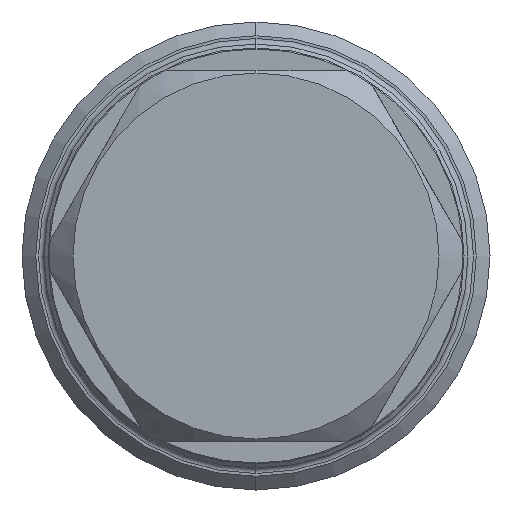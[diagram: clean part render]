
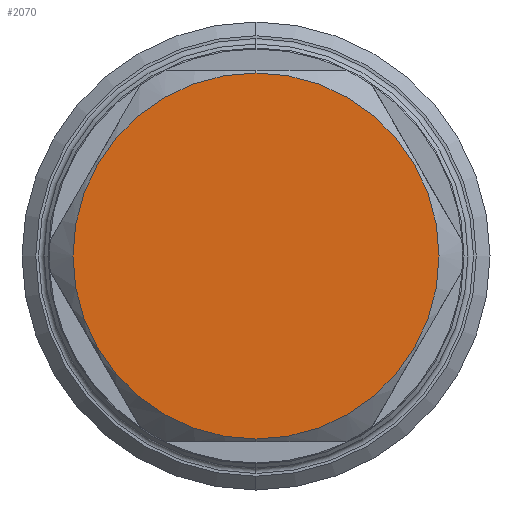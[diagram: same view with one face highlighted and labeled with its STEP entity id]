
A CAD part, left-side view. The second image highlights one B-rep face of the part: STEP entity #2070.
In plain terms, the highlighted planar face has unit normal (-1, 0, 0).
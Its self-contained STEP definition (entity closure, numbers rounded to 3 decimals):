
#911 = AXIS2_PLACEMENT_3D ( 'NONE', #3201, #9843, #3247 ) ;
#954 = DIRECTION ( 'NONE',  ( 1., 0., 0. ) ) ;
#1387 = DIRECTION ( 'NONE',  ( 1., 0., 0. ) ) ;
#2057 = CIRCLE ( 'NONE', #12272, 13.3 ) ;
#2070 = ADVANCED_FACE ( 'NONE', ( #5399 ), #3121, .T. ) ;
#3121 = PLANE ( 'NONE',  #911 ) ;
#3201 = CARTESIAN_POINT ( 'NONE',  ( -90., 13.3, 0. ) ) ;
#3247 = DIRECTION ( 'NONE',  ( 0., 0., 1. ) ) ;
#3504 = EDGE_LOOP ( 'NONE', ( #7187, #3548 ) ) ;
#3548 = ORIENTED_EDGE ( 'NONE', *, *, #8804, .F. ) ;
#4687 = EDGE_CURVE ( 'NONE', #8714, #11264, #2057, .T. ) ;
#5399 = FACE_OUTER_BOUND ( 'NONE', #3504, .T. ) ;
#6393 = CARTESIAN_POINT ( 'NONE',  ( -90., 0., 0. ) ) ;
#7187 = ORIENTED_EDGE ( 'NONE', *, *, #4687, .F. ) ;
#7523 = DIRECTION ( 'NONE',  ( 0., 0., -1. ) ) ;
#8396 = CARTESIAN_POINT ( 'NONE',  ( -90., 0., -13.3 ) ) ;
#8714 = VERTEX_POINT ( 'NONE', #8396 ) ;
#8804 = EDGE_CURVE ( 'NONE', #11264, #8714, #10611, .T. ) ;
#9843 = DIRECTION ( 'NONE',  ( -1., 0., 0. ) ) ;
#9909 = DIRECTION ( 'NONE',  ( 0., 0., -1. ) ) ;
#10098 = CARTESIAN_POINT ( 'NONE',  ( -90., 0., 13.3 ) ) ;
#10611 = CIRCLE ( 'NONE', #11453, 13.3 ) ;
#10821 = CARTESIAN_POINT ( 'NONE',  ( -90., 0., 0. ) ) ;
#11264 = VERTEX_POINT ( 'NONE', #10098 ) ;
#11453 = AXIS2_PLACEMENT_3D ( 'NONE', #6393, #954, #7523 ) ;
#12272 = AXIS2_PLACEMENT_3D ( 'NONE', #10821, #1387, #9909 ) ;
